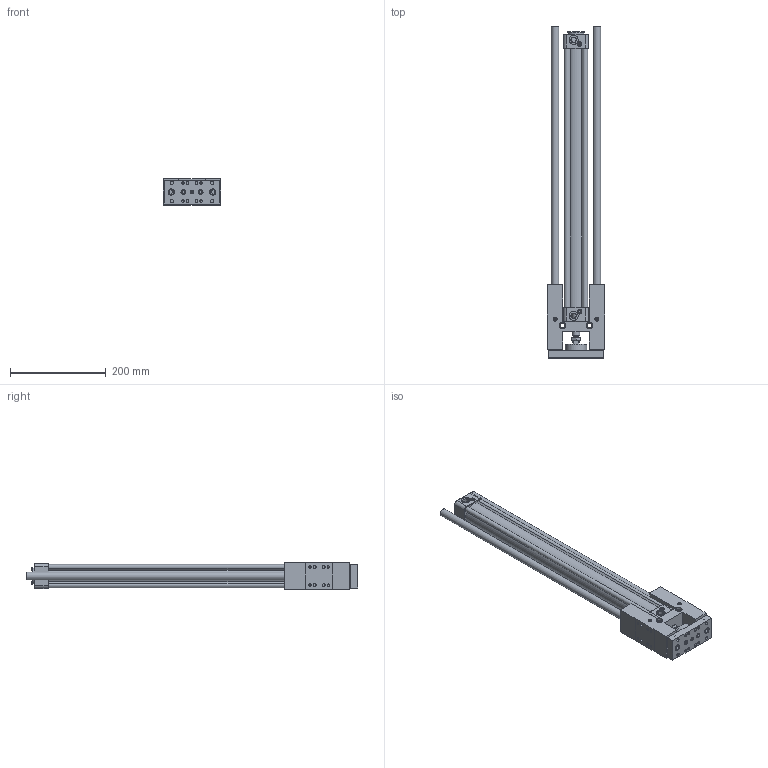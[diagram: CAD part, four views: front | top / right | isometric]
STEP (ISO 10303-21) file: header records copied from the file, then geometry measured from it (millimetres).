
FILE_DESCRIPTION((''),'2;1');
FILE_NAME('I:\3D電子目錄\氣缸\GHB(U)\GHB(U)\GHB(U)40\GHB(U)40x500.stp','2007-10-19T14:54:47',('Administrator'),(''),'Autodesk Inventor 11','Autodesk Inventor 11','');
FILE_SCHEMA(('AUTOMOTIVE_DESIGN { 1 0 10303 214 1 1 1 1 }'));
Length unit declared in the file: millimetre
Products named in the file (1): GHB(U)40
Bounding box: 119 x 693 x 56.2 mm (x, y, z)
Volume: 1440224.4 mm3; surface area: 412866 mm2
Topology: 17 solids, 17 shells, 779 faces, 1702 edges, 1054 vertices
Faces by surface type: plane 296, bspline 215, cylinder 170, cone 89, torus 9
Full cylindrical faces by diameter (mm): 2.6 x2, 4.9 x2, 4.917 x4, 5 x4, 5.5 x10, 6 x12, 6.5 x8, 6.8 x1, 7.8 x6, 8 x5, 9 x6, 9.5 x1, 9.9 x1, 10 x5, 10.2 x8, 12 x3, 13 x2, 16 x4, 18 x1, 19 x2, 21 x2, 35 x1, 40 x1, 45 x1
Entity records: 22134 total; most frequent: CARTESIAN_POINT 6597, DIRECTION 3108, ORIENTED_EDGE 2968, EDGE_CURVE 1484, AXIS2_PLACEMENT_3D 1218, EDGE_LOOP 1096, VERTEX_POINT 1022, FACE_OUTER_BOUND 779
